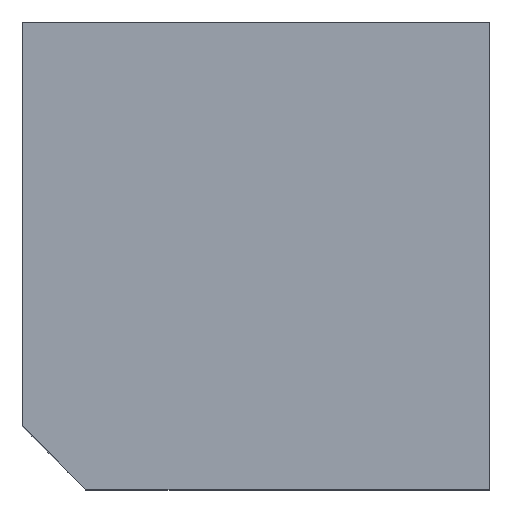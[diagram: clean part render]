
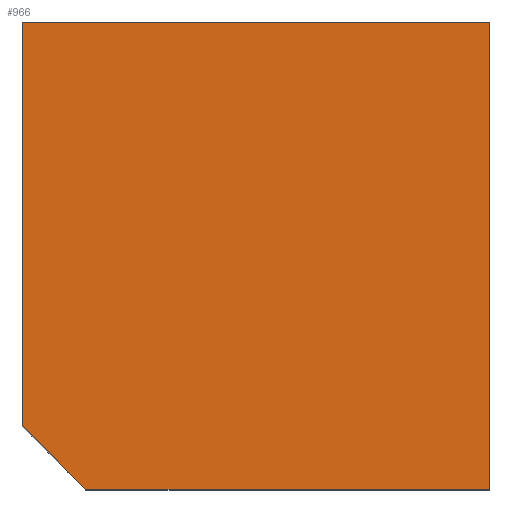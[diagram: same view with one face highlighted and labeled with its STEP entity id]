
A CAD part, top view. The second image highlights one B-rep face of the part: STEP entity #966.
In plain terms, the highlighted planar face has unit normal (0, 0, 1).
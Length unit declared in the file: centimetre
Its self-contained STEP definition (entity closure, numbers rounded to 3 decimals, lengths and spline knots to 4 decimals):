
#11 = CARTESIAN_POINT ( 'NONE',  ( 1000., 0., 1000. ) ) ;
#63 = CARTESIAN_POINT ( 'NONE',  ( 1000., 1000., 1000. ) ) ;
#68 = VERTEX_POINT ( 'NONE', #609 ) ;
#144 = CARTESIAN_POINT ( 'NONE',  ( 0., 135.7906, 1000. ) ) ;
#161 = CARTESIAN_POINT ( 'NONE',  ( 67.8953, 67.8953, 1000. ) ) ;
#163 = EDGE_LOOP ( 'NONE', ( #556, #661, #416, #434, #921 ) ) ;
#166 = VECTOR ( 'NONE', #518, 100. ) ;
#172 = CARTESIAN_POINT ( 'NONE',  ( 0., 0., 1000. ) ) ;
#210 = AXIS2_PLACEMENT_3D ( 'NONE', #583, #729, #483 ) ;
#250 = DIRECTION ( 'NONE',  ( 0.707, -0.707, 0. ) ) ;
#253 = FACE_OUTER_BOUND ( 'NONE', #163, .T. ) ;
#256 = CARTESIAN_POINT ( 'NONE',  ( 1000., 1000., 1000. ) ) ;
#330 = EDGE_CURVE ( 'NONE', #956, #68, #768, .T. ) ;
#361 = EDGE_CURVE ( 'NONE', #68, #407, #523, .T. ) ;
#407 = VERTEX_POINT ( 'NONE', #144 ) ;
#416 = ORIENTED_EDGE ( 'NONE', *, *, #948, .T. ) ;
#434 = ORIENTED_EDGE ( 'NONE', *, *, #567, .T. ) ;
#450 = DIRECTION ( 'NONE',  ( 0., 1., 0. ) ) ;
#466 = VECTOR ( 'NONE', #250, 100. ) ;
#473 = VERTEX_POINT ( 'NONE', #1036 ) ;
#483 = DIRECTION ( 'NONE',  ( 1., 0., 0. ) ) ;
#490 = VECTOR ( 'NONE', #940, 100. ) ;
#518 = DIRECTION ( 'NONE',  ( 0., -1., 0. ) ) ;
#523 = LINE ( 'NONE', #773, #166 ) ;
#544 = LINE ( 'NONE', #63, #873 ) ;
#556 = ORIENTED_EDGE ( 'NONE', *, *, #361, .T. ) ;
#567 = EDGE_CURVE ( 'NONE', #930, #956, #544, .T. ) ;
#583 = CARTESIAN_POINT ( 'NONE',  ( 0., 0., 1000. ) ) ;
#609 = CARTESIAN_POINT ( 'NONE',  ( 0., 1000., 1000. ) ) ;
#616 = CARTESIAN_POINT ( 'NONE',  ( 0., 1000., 1000. ) ) ;
#661 = ORIENTED_EDGE ( 'NONE', *, *, #1054, .T. ) ;
#729 = DIRECTION ( 'NONE',  ( 0., 0., 1. ) ) ;
#734 = DIRECTION ( 'NONE',  ( 1., 0., 0. ) ) ;
#768 = LINE ( 'NONE', #616, #490 ) ;
#773 = CARTESIAN_POINT ( 'NONE',  ( 0., 1000., 1000. ) ) ;
#873 = VECTOR ( 'NONE', #450, 100. ) ;
#882 = VECTOR ( 'NONE', #734, 100. ) ;
#901 = LINE ( 'NONE', #161, #466 ) ;
#912 = LINE ( 'NONE', #172, #882 ) ;
#918 = PLANE ( 'NONE',  #210 ) ;
#921 = ORIENTED_EDGE ( 'NONE', *, *, #330, .T. ) ;
#930 = VERTEX_POINT ( 'NONE', #11 ) ;
#940 = DIRECTION ( 'NONE',  ( -1., 0., 0. ) ) ;
#948 = EDGE_CURVE ( 'NONE', #473, #930, #912, .T. ) ;
#956 = VERTEX_POINT ( 'NONE', #256 ) ;
#966 = ADVANCED_FACE ( 'NONE', ( #253 ), #918, .T. ) ;
#1036 = CARTESIAN_POINT ( 'NONE',  ( 135.7906, 0., 1000. ) ) ;
#1054 = EDGE_CURVE ( 'NONE', #407, #473, #901, .T. ) ;
